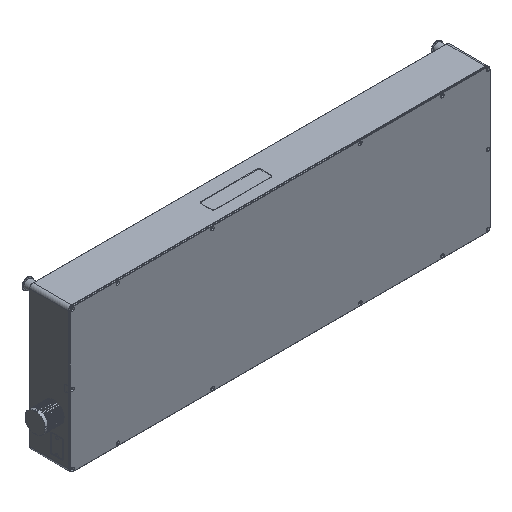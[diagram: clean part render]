
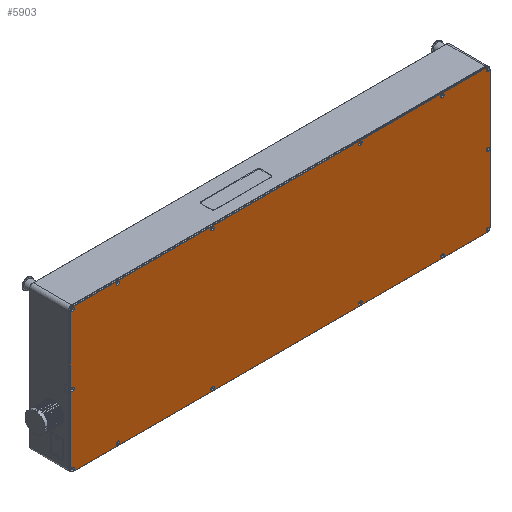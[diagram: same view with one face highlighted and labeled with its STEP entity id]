
A CAD part, isometric view. The second image highlights one B-rep face of the part: STEP entity #5903.
In plain terms, the highlighted planar face has unit normal (0, -1, 0).
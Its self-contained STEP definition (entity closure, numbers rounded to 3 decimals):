
#309=LINE('',#8638,#545);
#313=LINE('',#8645,#549);
#317=LINE('',#8662,#553);
#321=LINE('',#8669,#557);
#545=VECTOR('',#7303,1000.);
#549=VECTOR('',#7309,1000.);
#553=VECTOR('',#7327,1000.);
#557=VECTOR('',#7333,1000.);
#685=PLANE('',#6348);
#1320=ORIENTED_EDGE('',*,*,#2080,.T.);
#1321=ORIENTED_EDGE('',*,*,#2074,.T.);
#1322=ORIENTED_EDGE('',*,*,#2076,.T.);
#1323=ORIENTED_EDGE('',*,*,#2082,.T.);
#1324=ORIENTED_EDGE('',*,*,#2088,.T.);
#1325=ORIENTED_EDGE('',*,*,#2094,.T.);
#1326=ORIENTED_EDGE('',*,*,#2092,.T.);
#1327=ORIENTED_EDGE('',*,*,#2086,.T.);
#1328=ORIENTED_EDGE('',*,*,#2045,.T.);
#1329=ORIENTED_EDGE('',*,*,#2042,.T.);
#1330=ORIENTED_EDGE('',*,*,#2039,.T.);
#1331=ORIENTED_EDGE('',*,*,#2036,.T.);
#1332=ORIENTED_EDGE('',*,*,#2033,.T.);
#1333=ORIENTED_EDGE('',*,*,#2030,.T.);
#1334=ORIENTED_EDGE('',*,*,#2027,.T.);
#1335=ORIENTED_EDGE('',*,*,#2024,.T.);
#1336=ORIENTED_EDGE('',*,*,#2021,.T.);
#1337=ORIENTED_EDGE('',*,*,#2018,.T.);
#1338=ORIENTED_EDGE('',*,*,#2015,.T.);
#1339=ORIENTED_EDGE('',*,*,#2012,.T.);
#1340=ORIENTED_EDGE('',*,*,#2009,.T.);
#1341=ORIENTED_EDGE('',*,*,#2006,.T.);
#2006=EDGE_CURVE('',#2473,#2473,#2792,.T.);
#2009=EDGE_CURVE('',#2476,#2476,#2795,.T.);
#2012=EDGE_CURVE('',#2479,#2479,#2798,.T.);
#2015=EDGE_CURVE('',#2482,#2482,#2801,.T.);
#2018=EDGE_CURVE('',#2485,#2485,#2804,.T.);
#2021=EDGE_CURVE('',#2488,#2488,#2807,.T.);
#2024=EDGE_CURVE('',#2491,#2491,#2810,.T.);
#2027=EDGE_CURVE('',#2494,#2494,#2813,.T.);
#2030=EDGE_CURVE('',#2497,#2497,#2816,.T.);
#2033=EDGE_CURVE('',#2500,#2500,#2819,.T.);
#2036=EDGE_CURVE('',#2503,#2503,#2822,.T.);
#2039=EDGE_CURVE('',#2506,#2506,#2825,.T.);
#2042=EDGE_CURVE('',#2509,#2509,#2828,.T.);
#2045=EDGE_CURVE('',#2512,#2512,#2831,.T.);
#2074=EDGE_CURVE('',#2530,#2533,#2842,.T.);
#2076=EDGE_CURVE('',#2533,#2535,#309,.T.);
#2080=EDGE_CURVE('',#2536,#2530,#313,.T.);
#2082=EDGE_CURVE('',#2535,#2539,#2843,.T.);
#2086=EDGE_CURVE('',#2540,#2536,#2846,.T.);
#2088=EDGE_CURVE('',#2539,#2543,#317,.T.);
#2092=EDGE_CURVE('',#2544,#2540,#321,.T.);
#2094=EDGE_CURVE('',#2543,#2544,#2848,.T.);
#2473=VERTEX_POINT('',#8468);
#2476=VERTEX_POINT('',#8476);
#2479=VERTEX_POINT('',#8484);
#2482=VERTEX_POINT('',#8492);
#2485=VERTEX_POINT('',#8500);
#2488=VERTEX_POINT('',#8508);
#2491=VERTEX_POINT('',#8516);
#2494=VERTEX_POINT('',#8524);
#2497=VERTEX_POINT('',#8532);
#2500=VERTEX_POINT('',#8540);
#2503=VERTEX_POINT('',#8548);
#2506=VERTEX_POINT('',#8556);
#2509=VERTEX_POINT('',#8564);
#2512=VERTEX_POINT('',#8572);
#2530=VERTEX_POINT('',#8627);
#2533=VERTEX_POINT('',#8632);
#2535=VERTEX_POINT('',#8637);
#2536=VERTEX_POINT('',#8642);
#2539=VERTEX_POINT('',#8649);
#2540=VERTEX_POINT('',#8654);
#2543=VERTEX_POINT('',#8661);
#2544=VERTEX_POINT('',#8666);
#2792=CIRCLE('',#6238,4.7);
#2795=CIRCLE('',#6243,4.7);
#2798=CIRCLE('',#6248,4.7);
#2801=CIRCLE('',#6253,4.7);
#2804=CIRCLE('',#6258,4.7);
#2807=CIRCLE('',#6263,4.7);
#2810=CIRCLE('',#6268,4.7);
#2813=CIRCLE('',#6273,4.7);
#2816=CIRCLE('',#6278,4.7);
#2819=CIRCLE('',#6283,4.7);
#2822=CIRCLE('',#6288,4.7);
#2825=CIRCLE('',#6293,4.7);
#2828=CIRCLE('',#6298,4.7);
#2831=CIRCLE('',#6303,4.7);
#2842=CIRCLE('',#6325,8.75);
#2843=CIRCLE('',#6329,8.75);
#2846=CIRCLE('',#6333,8.75);
#2848=CIRCLE('',#6338,8.75);
#3209=EDGE_LOOP('',(#1320,#1321,#1322,#1323,#1324,#1325,#1326,#1327));
#3210=EDGE_LOOP('',(#1328));
#3211=EDGE_LOOP('',(#1329));
#3212=EDGE_LOOP('',(#1330));
#3213=EDGE_LOOP('',(#1331));
#3214=EDGE_LOOP('',(#1332));
#3215=EDGE_LOOP('',(#1333));
#3216=EDGE_LOOP('',(#1334));
#3217=EDGE_LOOP('',(#1335));
#3218=EDGE_LOOP('',(#1336));
#3219=EDGE_LOOP('',(#1337));
#3220=EDGE_LOOP('',(#1338));
#3221=EDGE_LOOP('',(#1339));
#3222=EDGE_LOOP('',(#1340));
#3223=EDGE_LOOP('',(#1341));
#3677=FACE_BOUND('',#3209,.T.);
#3678=FACE_BOUND('',#3210,.T.);
#3679=FACE_BOUND('',#3211,.T.);
#3680=FACE_BOUND('',#3212,.T.);
#3681=FACE_BOUND('',#3213,.T.);
#3682=FACE_BOUND('',#3214,.T.);
#3683=FACE_BOUND('',#3215,.T.);
#3684=FACE_BOUND('',#3216,.T.);
#3685=FACE_BOUND('',#3217,.T.);
#3686=FACE_BOUND('',#3218,.T.);
#3687=FACE_BOUND('',#3219,.T.);
#3688=FACE_BOUND('',#3220,.T.);
#3689=FACE_BOUND('',#3221,.T.);
#3690=FACE_BOUND('',#3222,.T.);
#3691=FACE_BOUND('',#3223,.T.);
#5903=ADVANCED_FACE('',(#3677,#3678,#3679,#3680,#3681,#3682,#3683,#3684,
#3685,#3686,#3687,#3688,#3689,#3690,#3691),#685,.T.);
#6238=AXIS2_PLACEMENT_3D('',#8467,#7106,#7107);
#6243=AXIS2_PLACEMENT_3D('',#8475,#7116,#7117);
#6248=AXIS2_PLACEMENT_3D('',#8483,#7126,#7127);
#6253=AXIS2_PLACEMENT_3D('',#8491,#7136,#7137);
#6258=AXIS2_PLACEMENT_3D('',#8499,#7146,#7147);
#6263=AXIS2_PLACEMENT_3D('',#8507,#7156,#7157);
#6268=AXIS2_PLACEMENT_3D('',#8515,#7166,#7167);
#6273=AXIS2_PLACEMENT_3D('',#8523,#7176,#7177);
#6278=AXIS2_PLACEMENT_3D('',#8531,#7186,#7187);
#6283=AXIS2_PLACEMENT_3D('',#8539,#7196,#7197);
#6288=AXIS2_PLACEMENT_3D('',#8547,#7206,#7207);
#6293=AXIS2_PLACEMENT_3D('',#8555,#7216,#7217);
#6298=AXIS2_PLACEMENT_3D('',#8563,#7226,#7227);
#6303=AXIS2_PLACEMENT_3D('',#8571,#7236,#7237);
#6325=AXIS2_PLACEMENT_3D('',#8633,#7298,#7299);
#6329=AXIS2_PLACEMENT_3D('',#8650,#7313,#7314);
#6333=AXIS2_PLACEMENT_3D('',#8657,#7322,#7323);
#6338=AXIS2_PLACEMENT_3D('',#8672,#7338,#7339);
#6348=AXIS2_PLACEMENT_3D('',#8702,#7370,#7371);
#7106=DIRECTION('',(0.,1.,0.));
#7107=DIRECTION('',(0.,0.,1.));
#7116=DIRECTION('',(0.,1.,0.));
#7117=DIRECTION('',(0.,0.,1.));
#7126=DIRECTION('',(0.,1.,0.));
#7127=DIRECTION('',(0.,0.,1.));
#7136=DIRECTION('',(0.,1.,0.));
#7137=DIRECTION('',(0.,0.,1.));
#7146=DIRECTION('',(0.,1.,0.));
#7147=DIRECTION('',(0.,0.,1.));
#7156=DIRECTION('',(0.,1.,0.));
#7157=DIRECTION('',(0.,0.,1.));
#7166=DIRECTION('',(0.,1.,0.));
#7167=DIRECTION('',(0.,0.,1.));
#7176=DIRECTION('',(0.,1.,0.));
#7177=DIRECTION('',(0.,0.,1.));
#7186=DIRECTION('',(0.,1.,0.));
#7187=DIRECTION('',(0.,0.,1.));
#7196=DIRECTION('',(0.,1.,0.));
#7197=DIRECTION('',(0.,0.,1.));
#7206=DIRECTION('',(0.,1.,0.));
#7207=DIRECTION('',(0.,0.,1.));
#7216=DIRECTION('',(0.,1.,0.));
#7217=DIRECTION('',(0.,0.,1.));
#7226=DIRECTION('',(0.,1.,0.));
#7227=DIRECTION('',(0.,0.,1.));
#7236=DIRECTION('',(0.,1.,0.));
#7237=DIRECTION('',(0.,0.,1.));
#7298=DIRECTION('',(0.,-1.,0.));
#7299=DIRECTION('',(0.,0.,-1.));
#7303=DIRECTION('',(0.,0.,1.));
#7309=DIRECTION('',(1.,0.,0.));
#7313=DIRECTION('',(0.,-1.,0.));
#7314=DIRECTION('',(0.,0.,-1.));
#7322=DIRECTION('',(0.,-1.,0.));
#7323=DIRECTION('',(0.,0.,-1.));
#7327=DIRECTION('',(-1.,0.,0.));
#7333=DIRECTION('',(0.,0.,-1.));
#7338=DIRECTION('',(0.,-1.,0.));
#7339=DIRECTION('',(0.,0.,-1.));
#7370=DIRECTION('',(0.,-1.,0.));
#7371=DIRECTION('',(0.,0.,-1.));
#8467=CARTESIAN_POINT('',(-592.5,-5.,197.5));
#8468=CARTESIAN_POINT('',(-592.5,-5.,202.2));
#8475=CARTESIAN_POINT('',(-592.5,-5.,0.));
#8476=CARTESIAN_POINT('',(-592.5,-5.,4.7));
#8483=CARTESIAN_POINT('',(-592.5,-5.,-197.5));
#8484=CARTESIAN_POINT('',(-592.5,-5.,-192.8));
#8491=CARTESIAN_POINT('',(592.5,-5.,197.5));
#8492=CARTESIAN_POINT('',(592.5,-5.,202.2));
#8499=CARTESIAN_POINT('',(592.5,-5.,0.));
#8500=CARTESIAN_POINT('',(592.5,-5.,4.7));
#8507=CARTESIAN_POINT('',(592.5,-5.,-197.5));
#8508=CARTESIAN_POINT('',(592.5,-5.,-192.8));
#8515=CARTESIAN_POINT('',(463.,-5.,-197.5));
#8516=CARTESIAN_POINT('',(463.,-5.,-192.8));
#8523=CARTESIAN_POINT('',(193.,-5.,-197.5));
#8524=CARTESIAN_POINT('',(193.,-5.,-192.8));
#8531=CARTESIAN_POINT('',(-229.,-5.,-197.5));
#8532=CARTESIAN_POINT('',(-229.,-5.,-192.8));
#8539=CARTESIAN_POINT('',(-463.,-5.,-197.5));
#8540=CARTESIAN_POINT('',(-463.,-5.,-192.8));
#8547=CARTESIAN_POINT('',(463.,-5.,197.5));
#8548=CARTESIAN_POINT('',(463.,-5.,202.2));
#8555=CARTESIAN_POINT('',(193.,-5.,197.5));
#8556=CARTESIAN_POINT('',(193.,-5.,202.2));
#8563=CARTESIAN_POINT('',(-229.,-5.,197.5));
#8564=CARTESIAN_POINT('',(-229.,-5.,202.2));
#8571=CARTESIAN_POINT('',(-463.,-5.,197.5));
#8572=CARTESIAN_POINT('',(-463.,-5.,202.2));
#8627=CARTESIAN_POINT('',(590.,-5.,-203.75));
#8632=CARTESIAN_POINT('',(598.75,-5.,-195.));
#8633=CARTESIAN_POINT('',(590.,-5.,-195.));
#8637=CARTESIAN_POINT('',(598.75,-5.,195.));
#8638=CARTESIAN_POINT('',(598.75,-5.,195.));
#8642=CARTESIAN_POINT('',(-590.,-5.,-203.75));
#8645=CARTESIAN_POINT('',(590.,-5.,-203.75));
#8649=CARTESIAN_POINT('',(590.,-5.,203.75));
#8650=CARTESIAN_POINT('',(590.,-5.,195.));
#8654=CARTESIAN_POINT('',(-598.75,-5.,-195.));
#8657=CARTESIAN_POINT('',(-590.,-5.,-195.));
#8661=CARTESIAN_POINT('',(-590.,-5.,203.75));
#8662=CARTESIAN_POINT('',(-590.,-5.,203.75));
#8666=CARTESIAN_POINT('',(-598.75,-5.,195.));
#8669=CARTESIAN_POINT('',(-598.75,-5.,-195.));
#8672=CARTESIAN_POINT('',(-590.,-5.,195.));
#8702=CARTESIAN_POINT('',(0.,-5.,0.));
